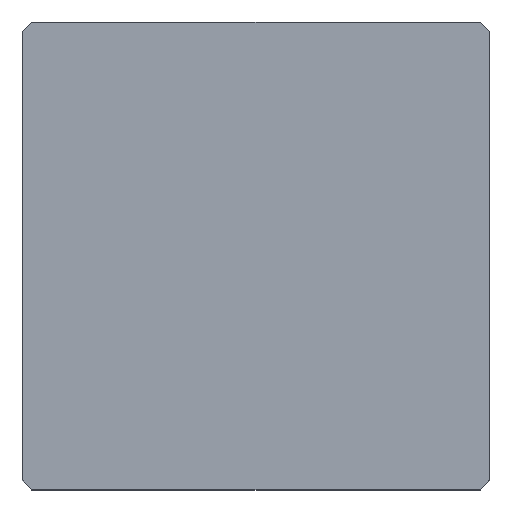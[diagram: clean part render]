
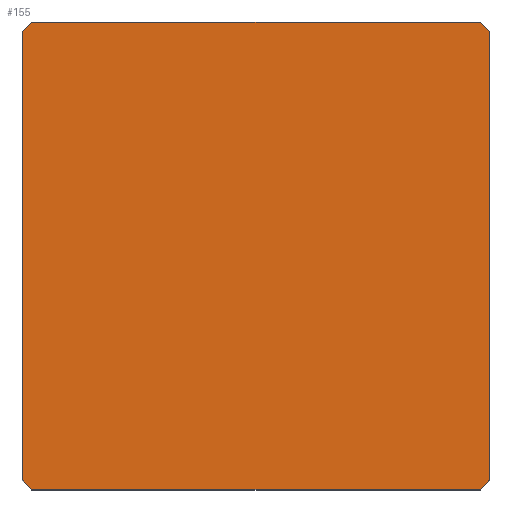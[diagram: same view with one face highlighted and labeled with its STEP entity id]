
A CAD part, top view. The second image highlights one B-rep face of the part: STEP entity #155.
In plain terms, the highlighted planar face has unit normal (0, 0, 1).
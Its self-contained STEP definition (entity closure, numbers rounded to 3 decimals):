
#39 = EDGE_CURVE('',#40,#42,#44,.T.);
#40 = VERTEX_POINT('',#41);
#41 = CARTESIAN_POINT('',(-10.,-9.6,17.25));
#42 = VERTEX_POINT('',#43);
#43 = CARTESIAN_POINT('',(-10.,9.6,17.25));
#44 = SURFACE_CURVE('',#45,(#49,#61),.PCURVE_S1.);
#45 = LINE('',#46,#47);
#46 = CARTESIAN_POINT('',(-10.,-10.,17.25));
#47 = VECTOR('',#48,1.);
#48 = DIRECTION('',(-0.,1.,0.));
#49 = PCURVE('',#50,#55);
#50 = PLANE('',#51);
#51 = AXIS2_PLACEMENT_3D('',#52,#53,#54);
#52 = CARTESIAN_POINT('',(-10.,-10.,0.));
#53 = DIRECTION('',(1.,0.,-0.));
#54 = DIRECTION('',(0.,0.,1.));
#55 = DEFINITIONAL_REPRESENTATION('',(#56),#60);
#56 = LINE('',#57,#58);
#57 = CARTESIAN_POINT('',(17.25,0.));
#58 = VECTOR('',#59,1.);
#59 = DIRECTION('',(0.,-1.));
#60 = ( GEOMETRIC_REPRESENTATION_CONTEXT(2) 
PARAMETRIC_REPRESENTATION_CONTEXT() REPRESENTATION_CONTEXT('2D SPACE',''
  ) );
#61 = PCURVE('',#62,#67);
#62 = PLANE('',#63);
#63 = AXIS2_PLACEMENT_3D('',#64,#65,#66);
#64 = CARTESIAN_POINT('',(-10.,-10.,17.25));
#65 = DIRECTION('',(0.,0.,1.));
#66 = DIRECTION('',(1.,0.,-0.));
#67 = DEFINITIONAL_REPRESENTATION('',(#68),#72);
#68 = LINE('',#69,#70);
#69 = CARTESIAN_POINT('',(0.,0.));
#70 = VECTOR('',#71,1.);
#71 = DIRECTION('',(0.,1.));
#72 = ( GEOMETRIC_REPRESENTATION_CONTEXT(2) 
PARAMETRIC_REPRESENTATION_CONTEXT() REPRESENTATION_CONTEXT('2D SPACE',''
  ) );
#90 = PLANE('',#91);
#91 = AXIS2_PLACEMENT_3D('',#92,#93,#94);
#92 = CARTESIAN_POINT('',(-9.8,-9.8,0.));
#93 = DIRECTION('',(-0.707,-0.707,0.));
#94 = DIRECTION('',(-0.,-0.,-1.));
#144 = PLANE('',#145);
#145 = AXIS2_PLACEMENT_3D('',#146,#147,#148);
#146 = CARTESIAN_POINT('',(-9.8,9.8,0.));
#147 = DIRECTION('',(0.707,-0.707,0.));
#148 = DIRECTION('',(-0.,-0.,-1.));
#155 = ADVANCED_FACE('',(#156),#62,.T.);
#156 = FACE_BOUND('',#157,.T.);
#157 = EDGE_LOOP('',(#158,#159,#182,#210,#238,#266,#294,#322));
#158 = ORIENTED_EDGE('',*,*,#39,.F.);
#159 = ORIENTED_EDGE('',*,*,#160,.T.);
#160 = EDGE_CURVE('',#40,#161,#163,.T.);
#161 = VERTEX_POINT('',#162);
#162 = CARTESIAN_POINT('',(-9.6,-10.,17.25));
#163 = SURFACE_CURVE('',#164,(#168,#175),.PCURVE_S1.);
#164 = LINE('',#165,#166);
#165 = CARTESIAN_POINT('',(-9.8,-9.8,17.25));
#166 = VECTOR('',#167,1.);
#167 = DIRECTION('',(0.707,-0.707,0.));
#168 = PCURVE('',#62,#169);
#169 = DEFINITIONAL_REPRESENTATION('',(#170),#174);
#170 = LINE('',#171,#172);
#171 = CARTESIAN_POINT('',(0.2,0.2));
#172 = VECTOR('',#173,1.);
#173 = DIRECTION('',(0.707,-0.707));
#174 = ( GEOMETRIC_REPRESENTATION_CONTEXT(2) 
PARAMETRIC_REPRESENTATION_CONTEXT() REPRESENTATION_CONTEXT('2D SPACE',''
  ) );
#175 = PCURVE('',#90,#176);
#176 = DEFINITIONAL_REPRESENTATION('',(#177),#181);
#177 = LINE('',#178,#179);
#178 = CARTESIAN_POINT('',(-17.25,0.));
#179 = VECTOR('',#180,1.);
#180 = DIRECTION('',(-0.,1.));
#181 = ( GEOMETRIC_REPRESENTATION_CONTEXT(2) 
PARAMETRIC_REPRESENTATION_CONTEXT() REPRESENTATION_CONTEXT('2D SPACE',''
  ) );
#182 = ORIENTED_EDGE('',*,*,#183,.T.);
#183 = EDGE_CURVE('',#161,#184,#186,.T.);
#184 = VERTEX_POINT('',#185);
#185 = CARTESIAN_POINT('',(9.6,-10.,17.25));
#186 = SURFACE_CURVE('',#187,(#191,#198),.PCURVE_S1.);
#187 = LINE('',#188,#189);
#188 = CARTESIAN_POINT('',(-10.,-10.,17.25));
#189 = VECTOR('',#190,1.);
#190 = DIRECTION('',(1.,0.,-0.));
#191 = PCURVE('',#62,#192);
#192 = DEFINITIONAL_REPRESENTATION('',(#193),#197);
#193 = LINE('',#194,#195);
#194 = CARTESIAN_POINT('',(0.,0.));
#195 = VECTOR('',#196,1.);
#196 = DIRECTION('',(1.,0.));
#197 = ( GEOMETRIC_REPRESENTATION_CONTEXT(2) 
PARAMETRIC_REPRESENTATION_CONTEXT() REPRESENTATION_CONTEXT('2D SPACE',''
  ) );
#198 = PCURVE('',#199,#204);
#199 = PLANE('',#200);
#200 = AXIS2_PLACEMENT_3D('',#201,#202,#203);
#201 = CARTESIAN_POINT('',(-10.,-10.,0.));
#202 = DIRECTION('',(-0.,1.,0.));
#203 = DIRECTION('',(0.,0.,1.));
#204 = DEFINITIONAL_REPRESENTATION('',(#205),#209);
#205 = LINE('',#206,#207);
#206 = CARTESIAN_POINT('',(17.25,0.));
#207 = VECTOR('',#208,1.);
#208 = DIRECTION('',(0.,1.));
#209 = ( GEOMETRIC_REPRESENTATION_CONTEXT(2) 
PARAMETRIC_REPRESENTATION_CONTEXT() REPRESENTATION_CONTEXT('2D SPACE',''
  ) );
#210 = ORIENTED_EDGE('',*,*,#211,.F.);
#211 = EDGE_CURVE('',#212,#184,#214,.T.);
#212 = VERTEX_POINT('',#213);
#213 = CARTESIAN_POINT('',(10.,-9.6,17.25));
#214 = SURFACE_CURVE('',#215,(#219,#226),.PCURVE_S1.);
#215 = LINE('',#216,#217);
#216 = CARTESIAN_POINT('',(4.8,-14.8,17.25));
#217 = VECTOR('',#218,1.);
#218 = DIRECTION('',(-0.707,-0.707,0.));
#219 = PCURVE('',#62,#220);
#220 = DEFINITIONAL_REPRESENTATION('',(#221),#225);
#221 = LINE('',#222,#223);
#222 = CARTESIAN_POINT('',(14.8,-4.8));
#223 = VECTOR('',#224,1.);
#224 = DIRECTION('',(-0.707,-0.707));
#225 = ( GEOMETRIC_REPRESENTATION_CONTEXT(2) 
PARAMETRIC_REPRESENTATION_CONTEXT() REPRESENTATION_CONTEXT('2D SPACE',''
  ) );
#226 = PCURVE('',#227,#232);
#227 = PLANE('',#228);
#228 = AXIS2_PLACEMENT_3D('',#229,#230,#231);
#229 = CARTESIAN_POINT('',(9.8,-9.8,0.));
#230 = DIRECTION('',(-0.707,0.707,0.));
#231 = DIRECTION('',(-0.,-0.,-1.));
#232 = DEFINITIONAL_REPRESENTATION('',(#233),#237);
#233 = LINE('',#234,#235);
#234 = CARTESIAN_POINT('',(-17.25,7.071));
#235 = VECTOR('',#236,1.);
#236 = DIRECTION('',(-0.,1.));
#237 = ( GEOMETRIC_REPRESENTATION_CONTEXT(2) 
PARAMETRIC_REPRESENTATION_CONTEXT() REPRESENTATION_CONTEXT('2D SPACE',''
  ) );
#238 = ORIENTED_EDGE('',*,*,#239,.T.);
#239 = EDGE_CURVE('',#212,#240,#242,.T.);
#240 = VERTEX_POINT('',#241);
#241 = CARTESIAN_POINT('',(10.,9.6,17.25));
#242 = SURFACE_CURVE('',#243,(#247,#254),.PCURVE_S1.);
#243 = LINE('',#244,#245);
#244 = CARTESIAN_POINT('',(10.,-10.,17.25));
#245 = VECTOR('',#246,1.);
#246 = DIRECTION('',(-0.,1.,0.));
#247 = PCURVE('',#62,#248);
#248 = DEFINITIONAL_REPRESENTATION('',(#249),#253);
#249 = LINE('',#250,#251);
#250 = CARTESIAN_POINT('',(20.,0.));
#251 = VECTOR('',#252,1.);
#252 = DIRECTION('',(0.,1.));
#253 = ( GEOMETRIC_REPRESENTATION_CONTEXT(2) 
PARAMETRIC_REPRESENTATION_CONTEXT() REPRESENTATION_CONTEXT('2D SPACE',''
  ) );
#254 = PCURVE('',#255,#260);
#255 = PLANE('',#256);
#256 = AXIS2_PLACEMENT_3D('',#257,#258,#259);
#257 = CARTESIAN_POINT('',(10.,-10.,0.));
#258 = DIRECTION('',(1.,0.,-0.));
#259 = DIRECTION('',(0.,0.,1.));
#260 = DEFINITIONAL_REPRESENTATION('',(#261),#265);
#261 = LINE('',#262,#263);
#262 = CARTESIAN_POINT('',(17.25,0.));
#263 = VECTOR('',#264,1.);
#264 = DIRECTION('',(0.,-1.));
#265 = ( GEOMETRIC_REPRESENTATION_CONTEXT(2) 
PARAMETRIC_REPRESENTATION_CONTEXT() REPRESENTATION_CONTEXT('2D SPACE',''
  ) );
#266 = ORIENTED_EDGE('',*,*,#267,.T.);
#267 = EDGE_CURVE('',#240,#268,#270,.T.);
#268 = VERTEX_POINT('',#269);
#269 = CARTESIAN_POINT('',(9.6,10.,17.25));
#270 = SURFACE_CURVE('',#271,(#275,#282),.PCURVE_S1.);
#271 = LINE('',#272,#273);
#272 = CARTESIAN_POINT('',(9.8,9.8,17.25));
#273 = VECTOR('',#274,1.);
#274 = DIRECTION('',(-0.707,0.707,0.));
#275 = PCURVE('',#62,#276);
#276 = DEFINITIONAL_REPRESENTATION('',(#277),#281);
#277 = LINE('',#278,#279);
#278 = CARTESIAN_POINT('',(19.8,19.8));
#279 = VECTOR('',#280,1.);
#280 = DIRECTION('',(-0.707,0.707));
#281 = ( GEOMETRIC_REPRESENTATION_CONTEXT(2) 
PARAMETRIC_REPRESENTATION_CONTEXT() REPRESENTATION_CONTEXT('2D SPACE',''
  ) );
#282 = PCURVE('',#283,#288);
#283 = PLANE('',#284);
#284 = AXIS2_PLACEMENT_3D('',#285,#286,#287);
#285 = CARTESIAN_POINT('',(9.8,9.8,0.));
#286 = DIRECTION('',(0.707,0.707,0.));
#287 = DIRECTION('',(-0.,0.,-1.));
#288 = DEFINITIONAL_REPRESENTATION('',(#289),#293);
#289 = LINE('',#290,#291);
#290 = CARTESIAN_POINT('',(-17.25,0.));
#291 = VECTOR('',#292,1.);
#292 = DIRECTION('',(-0.,1.));
#293 = ( GEOMETRIC_REPRESENTATION_CONTEXT(2) 
PARAMETRIC_REPRESENTATION_CONTEXT() REPRESENTATION_CONTEXT('2D SPACE',''
  ) );
#294 = ORIENTED_EDGE('',*,*,#295,.F.);
#295 = EDGE_CURVE('',#296,#268,#298,.T.);
#296 = VERTEX_POINT('',#297);
#297 = CARTESIAN_POINT('',(-9.6,10.,17.25));
#298 = SURFACE_CURVE('',#299,(#303,#310),.PCURVE_S1.);
#299 = LINE('',#300,#301);
#300 = CARTESIAN_POINT('',(-10.,10.,17.25));
#301 = VECTOR('',#302,1.);
#302 = DIRECTION('',(1.,0.,-0.));
#303 = PCURVE('',#62,#304);
#304 = DEFINITIONAL_REPRESENTATION('',(#305),#309);
#305 = LINE('',#306,#307);
#306 = CARTESIAN_POINT('',(0.,20.));
#307 = VECTOR('',#308,1.);
#308 = DIRECTION('',(1.,0.));
#309 = ( GEOMETRIC_REPRESENTATION_CONTEXT(2) 
PARAMETRIC_REPRESENTATION_CONTEXT() REPRESENTATION_CONTEXT('2D SPACE',''
  ) );
#310 = PCURVE('',#311,#316);
#311 = PLANE('',#312);
#312 = AXIS2_PLACEMENT_3D('',#313,#314,#315);
#313 = CARTESIAN_POINT('',(-10.,10.,0.));
#314 = DIRECTION('',(-0.,1.,0.));
#315 = DIRECTION('',(0.,0.,1.));
#316 = DEFINITIONAL_REPRESENTATION('',(#317),#321);
#317 = LINE('',#318,#319);
#318 = CARTESIAN_POINT('',(17.25,0.));
#319 = VECTOR('',#320,1.);
#320 = DIRECTION('',(0.,1.));
#321 = ( GEOMETRIC_REPRESENTATION_CONTEXT(2) 
PARAMETRIC_REPRESENTATION_CONTEXT() REPRESENTATION_CONTEXT('2D SPACE',''
  ) );
#322 = ORIENTED_EDGE('',*,*,#323,.F.);
#323 = EDGE_CURVE('',#42,#296,#324,.T.);
#324 = SURFACE_CURVE('',#325,(#329,#336),.PCURVE_S1.);
#325 = LINE('',#326,#327);
#326 = CARTESIAN_POINT('',(-14.8,4.8,17.25));
#327 = VECTOR('',#328,1.);
#328 = DIRECTION('',(0.707,0.707,-0.));
#329 = PCURVE('',#62,#330);
#330 = DEFINITIONAL_REPRESENTATION('',(#331),#335);
#331 = LINE('',#332,#333);
#332 = CARTESIAN_POINT('',(-4.8,14.8));
#333 = VECTOR('',#334,1.);
#334 = DIRECTION('',(0.707,0.707));
#335 = ( GEOMETRIC_REPRESENTATION_CONTEXT(2) 
PARAMETRIC_REPRESENTATION_CONTEXT() REPRESENTATION_CONTEXT('2D SPACE',''
  ) );
#336 = PCURVE('',#144,#337);
#337 = DEFINITIONAL_REPRESENTATION('',(#338),#342);
#338 = LINE('',#339,#340);
#339 = CARTESIAN_POINT('',(-17.25,-7.071));
#340 = VECTOR('',#341,1.);
#341 = DIRECTION('',(-0.,1.));
#342 = ( GEOMETRIC_REPRESENTATION_CONTEXT(2) 
PARAMETRIC_REPRESENTATION_CONTEXT() REPRESENTATION_CONTEXT('2D SPACE',''
  ) );
